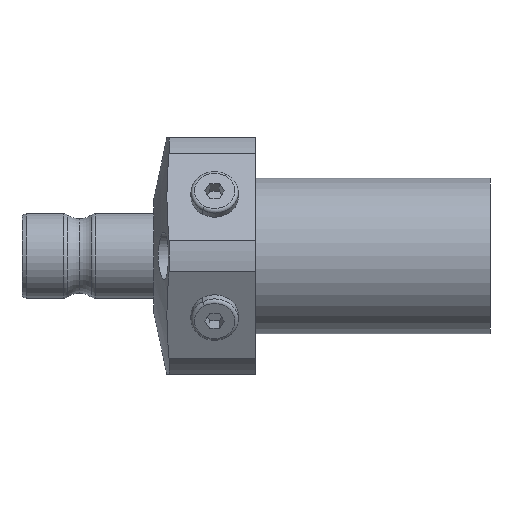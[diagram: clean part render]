
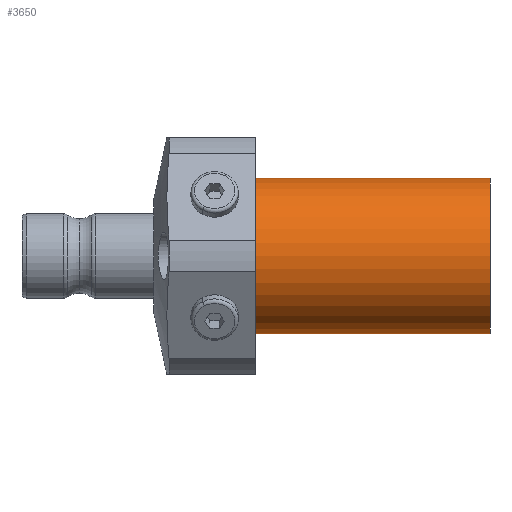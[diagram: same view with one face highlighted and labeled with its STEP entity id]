
A CAD part, left-side view. The second image highlights one B-rep face of the part: STEP entity #3650.
In plain terms, the highlighted cylindrical face has radius 23 mm (diameter 46 mm), a partial arc.
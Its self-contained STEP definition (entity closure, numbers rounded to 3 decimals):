
#48 = DIRECTION ( 'NONE',  ( 0., -1., 0. ) ) ;
#438 = VECTOR ( 'NONE', #1790, 1000. ) ;
#457 = DIRECTION ( 'NONE',  ( 0., -1., 0. ) ) ;
#611 = CIRCLE ( 'NONE', #3491, 23. ) ;
#701 = ORIENTED_EDGE ( 'NONE', *, *, #2696, .T. ) ;
#702 = FACE_OUTER_BOUND ( 'NONE', #2104, .T. ) ;
#790 = CARTESIAN_POINT ( 'NONE',  ( 0., 69.5, 23. ) ) ;
#1243 = CARTESIAN_POINT ( 'NONE',  ( 0., 69.5, -23. ) ) ;
#1441 = VERTEX_POINT ( 'NONE', #1243 ) ;
#1466 = CARTESIAN_POINT ( 'NONE',  ( 0., 0., 0. ) ) ;
#1649 = DIRECTION ( 'NONE',  ( 0., 0., -1. ) ) ;
#1691 = CIRCLE ( 'NONE', #1781, 23. ) ;
#1753 = DIRECTION ( 'NONE',  ( 0., 0., -1. ) ) ;
#1781 = AXIS2_PLACEMENT_3D ( 'NONE', #2239, #457, #2550 ) ;
#1790 = DIRECTION ( 'NONE',  ( 0., -1., 0. ) ) ;
#1841 = CARTESIAN_POINT ( 'NONE',  ( 0., 0., 23. ) ) ;
#1893 = CARTESIAN_POINT ( 'NONE',  ( 0., 0., -23. ) ) ;
#1912 = VECTOR ( 'NONE', #48, 1000. ) ;
#2013 = LINE ( 'NONE', #1841, #1912 ) ;
#2091 = EDGE_CURVE ( 'NONE', #2847, #3316, #2013, .T. ) ;
#2104 = EDGE_LOOP ( 'NONE', ( #2948, #701, #3333, #2701 ) ) ;
#2239 = CARTESIAN_POINT ( 'NONE',  ( 0., 69.5, 0. ) ) ;
#2264 = AXIS2_PLACEMENT_3D ( 'NONE', #2883, #2865, #1649 ) ;
#2550 = DIRECTION ( 'NONE',  ( 0., 0., -1. ) ) ;
#2696 = EDGE_CURVE ( 'NONE', #2847, #1441, #1691, .T. ) ;
#2701 = ORIENTED_EDGE ( 'NONE', *, *, #3805, .F. ) ;
#2847 = VERTEX_POINT ( 'NONE', #790 ) ;
#2865 = DIRECTION ( 'NONE',  ( 0., -1., 0. ) ) ;
#2883 = CARTESIAN_POINT ( 'NONE',  ( 0., 0., 0. ) ) ;
#2948 = ORIENTED_EDGE ( 'NONE', *, *, #2091, .F. ) ;
#2990 = CYLINDRICAL_SURFACE ( 'NONE', #2264, 23. ) ;
#3056 = VERTEX_POINT ( 'NONE', #1893 ) ;
#3057 = CARTESIAN_POINT ( 'NONE',  ( 0., 0., 23. ) ) ;
#3316 = VERTEX_POINT ( 'NONE', #3057 ) ;
#3333 = ORIENTED_EDGE ( 'NONE', *, *, #3899, .T. ) ;
#3491 = AXIS2_PLACEMENT_3D ( 'NONE', #1466, #3577, #1753 ) ;
#3577 = DIRECTION ( 'NONE',  ( 0., -1., 0. ) ) ;
#3608 = CARTESIAN_POINT ( 'NONE',  ( 0., 0., -23. ) ) ;
#3621 = LINE ( 'NONE', #3608, #438 ) ;
#3650 = ADVANCED_FACE ( 'NONE', ( #702 ), #2990, .T. ) ;
#3805 = EDGE_CURVE ( 'NONE', #3316, #3056, #611, .T. ) ;
#3899 = EDGE_CURVE ( 'NONE', #1441, #3056, #3621, .T. ) ;
